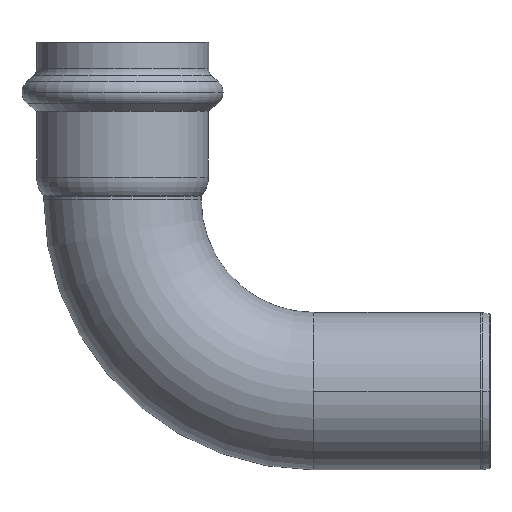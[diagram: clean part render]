
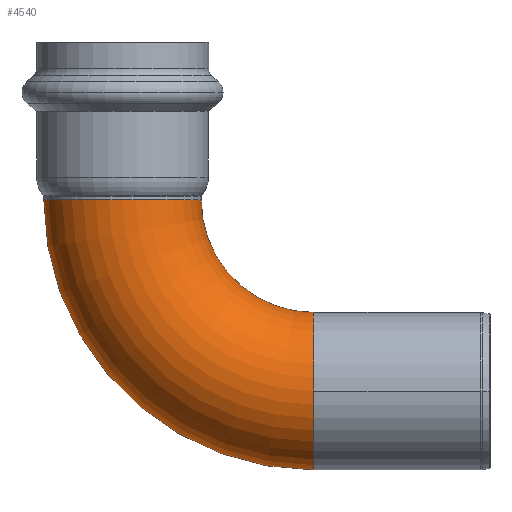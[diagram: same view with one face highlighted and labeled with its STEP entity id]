
A CAD part, top view. The second image highlights one B-rep face of the part: STEP entity #4540.
In plain terms, the highlighted toroidal (fillet/blend) face has major radius 51 mm and minor radius 21 mm.
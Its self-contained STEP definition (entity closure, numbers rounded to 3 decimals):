
#450=CARTESIAN_POINT('',(82.006,36.052,0.));
#460=DIRECTION('',(0.,0.,1.));
#470=DIRECTION('',(-1.,0.,0.));
#480=AXIS2_PLACEMENT_3D('',#450,#460,#470);
#490=TOROIDAL_SURFACE('',#480,51.,21.);
#500=CARTESIAN_POINT('',(82.006,-14.948,0.));
#510=DIRECTION('',(1.,0.,0.));
#520=DIRECTION('',(0.,1.,0.));
#530=AXIS2_PLACEMENT_3D('',#500,#510,#520);
#540=CIRCLE('',#530,21.);
#570=CARTESIAN_POINT('',(82.006,6.052,0.));
#580=VERTEX_POINT('',#570);
#610=CARTESIAN_POINT('',(82.006,36.052,0.));
#620=DIRECTION('',(0.,0.,1.));
#630=DIRECTION('',(-1.,0.,0.));
#640=AXIS2_PLACEMENT_3D('',#610,#620,#630);
#650=CIRCLE('',#640,30.);
#660=CARTESIAN_POINT('',(52.006,36.052,0.));
#670=VERTEX_POINT('',#660);
#680=EDGE_CURVE('',#670,#580,#650,.T.);
#790=CARTESIAN_POINT('',(10.006,36.052,0.)
);
#800=VERTEX_POINT('',#790);
#830=CARTESIAN_POINT('',(82.006,36.052,0.)
);
#840=DIRECTION('',(0.,0.,1.));
#850=DIRECTION('',(-1.,0.,0.));
#860=AXIS2_PLACEMENT_3D('',#830,#840,#850);
#870=CIRCLE('',#860,72.);
#880=CARTESIAN_POINT('',(82.006,-35.948,0.
));
#890=VERTEX_POINT('',#880);
#900=EDGE_CURVE('',#800,#890,#870,.T.);
#3490=CARTESIAN_POINT('',(82.006,-14.948,21.));
#3500=VERTEX_POINT('',#3490);
#3510=EDGE_CURVE('',#3500,#890,#540,.T.);
#4400=CARTESIAN_POINT('',(31.006,36.052,0.));
#4410=DIRECTION('',(0.,-1.,0.));
#4420=DIRECTION('',(1.,0.,0.));
#4430=AXIS2_PLACEMENT_3D('',#4400,#4410,#4420);
#4440=CIRCLE('',#4430,21.);
#4450=EDGE_CURVE('',#670,#800,#4440,.T.);
#4460=ORIENTED_EDGE('',*,*,#4450,.T.);
#4470=ORIENTED_EDGE('',*,*,#680,.F.);
#4480=EDGE_CURVE('',#580,#3500,#540,.T.);
#4490=ORIENTED_EDGE('',*,*,#4480,.F.);
#4500=ORIENTED_EDGE('',*,*,#3510,.F.);
#4510=ORIENTED_EDGE('',*,*,#900,.T.);
#4520=EDGE_LOOP('',(#4510,#4500,#4490,#4470,#4460));
#4530=FACE_OUTER_BOUND('',#4520,.T.);
#4540=ADVANCED_FACE('',(#4530),#490,.T.);
